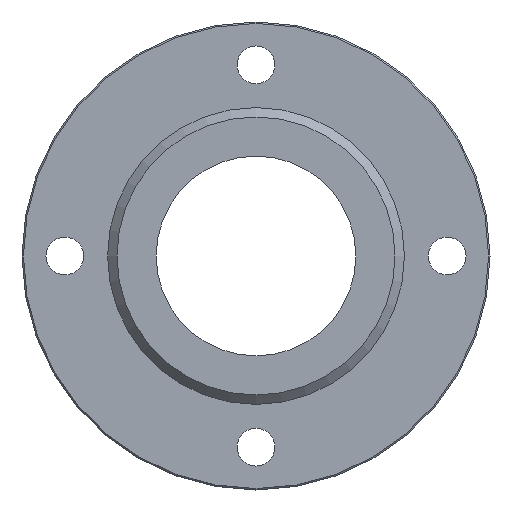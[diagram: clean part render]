
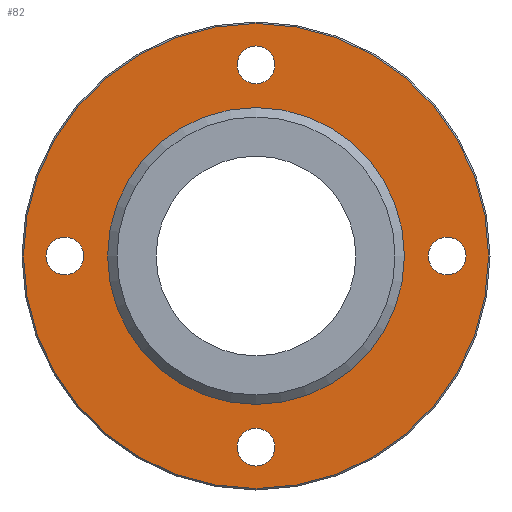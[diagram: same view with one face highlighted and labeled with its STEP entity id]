
A CAD part, left-side view. The second image highlights one B-rep face of the part: STEP entity #82.
In plain terms, the highlighted planar face has unit normal (-1, 0, 0).
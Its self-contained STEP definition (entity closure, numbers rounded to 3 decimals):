
#82=ADVANCED_FACE('',(#125,#126,#127,#128,#129,#130),#131,.F.);
#125=FACE_BOUND('',#205,.T.);
#126=FACE_BOUND('',#206,.T.);
#127=FACE_BOUND('',#207,.T.);
#128=FACE_BOUND('',#208,.T.);
#129=FACE_BOUND('',#209,.T.);
#130=FACE_OUTER_BOUND('',#210,.T.);
#131=PLANE('',#211);
#205=EDGE_LOOP('',(#299));
#206=EDGE_LOOP('',(#300));
#207=EDGE_LOOP('',(#301));
#208=EDGE_LOOP('',(#302));
#209=EDGE_LOOP('',(#303));
#210=EDGE_LOOP('',(#304));
#211=AXIS2_PLACEMENT_3D('',#305,#306,#307);
#299=ORIENTED_EDGE('',*,*,#401,.T.);
#300=ORIENTED_EDGE('',*,*,#402,.T.);
#301=ORIENTED_EDGE('',*,*,#403,.T.);
#302=ORIENTED_EDGE('',*,*,#404,.T.);
#303=ORIENTED_EDGE('',*,*,#405,.T.);
#304=ORIENTED_EDGE('',*,*,#400,.T.);
#305=CARTESIAN_POINT('',(-14.0,40.746,0.0));
#306=DIRECTION('',(1.0,0.0,0.0));
#307=DIRECTION('',(0.0,0.0,-1.0));
#400=EDGE_CURVE('',#440,#440,#441,.T.);
#401=EDGE_CURVE('',#442,#442,#443,.T.);
#402=EDGE_CURVE('',#444,#444,#445,.T.);
#403=EDGE_CURVE('',#446,#446,#447,.T.);
#404=EDGE_CURVE('',#448,#448,#449,.T.);
#405=EDGE_CURVE('',#450,#450,#451,.T.);
#440=VERTEX_POINT('',#496);
#441=CIRCLE('',#497,40.746);
#442=VERTEX_POINT('',#498);
#443=CIRCLE('',#499,26.0);
#444=VERTEX_POINT('',#500);
#445=CIRCLE('',#501,3.3);
#446=VERTEX_POINT('',#502);
#447=CIRCLE('',#503,3.3);
#448=VERTEX_POINT('',#504);
#449=CIRCLE('',#505,3.3);
#450=VERTEX_POINT('',#506);
#451=CIRCLE('',#507,3.3);
#496=CARTESIAN_POINT('',(-14.0,0.0,40.746));
#497=AXIS2_PLACEMENT_3D('',#564,#565,#566);
#498=CARTESIAN_POINT('',(-14.0,0.0,-26.0));
#499=AXIS2_PLACEMENT_3D('',#567,#568,#569);
#500=CARTESIAN_POINT('',(-14.0,0.,30.2));
#501=AXIS2_PLACEMENT_3D('',#570,#571,#572);
#502=CARTESIAN_POINT('',(-14.0,-33.5,-3.3));
#503=AXIS2_PLACEMENT_3D('',#573,#574,#575);
#504=CARTESIAN_POINT('',(-14.0,0.,-36.8));
#505=AXIS2_PLACEMENT_3D('',#576,#577,#578);
#506=CARTESIAN_POINT('',(-14.0,33.5,-3.3));
#507=AXIS2_PLACEMENT_3D('',#579,#580,#581);
#564=CARTESIAN_POINT('',(-14.0,0.0,0.0));
#565=DIRECTION('',(-1.0,0.0,0.0));
#566=DIRECTION('',(0.0,0.0,1.0));
#567=CARTESIAN_POINT('',(-14.0,0.0,0.0));
#568=DIRECTION('',(1.0,0.0,0.0));
#569=DIRECTION('',(0.0,0.0,-1.0));
#570=CARTESIAN_POINT('',(-14.0,0.,33.5));
#571=DIRECTION('',(1.0,0.0,0.0));
#572=DIRECTION('',(0.0,0.0,-1.0));
#573=CARTESIAN_POINT('',(-14.0,-33.5,0.0));
#574=DIRECTION('',(1.0,0.0,0.0));
#575=DIRECTION('',(0.0,0.0,-1.0));
#576=CARTESIAN_POINT('',(-14.0,0.,-33.5));
#577=DIRECTION('',(1.0,0.0,0.0));
#578=DIRECTION('',(0.0,0.0,-1.0));
#579=CARTESIAN_POINT('',(-14.0,33.5,0.0));
#580=DIRECTION('',(1.0,0.0,0.0));
#581=DIRECTION('',(0.0,0.0,-1.0));
